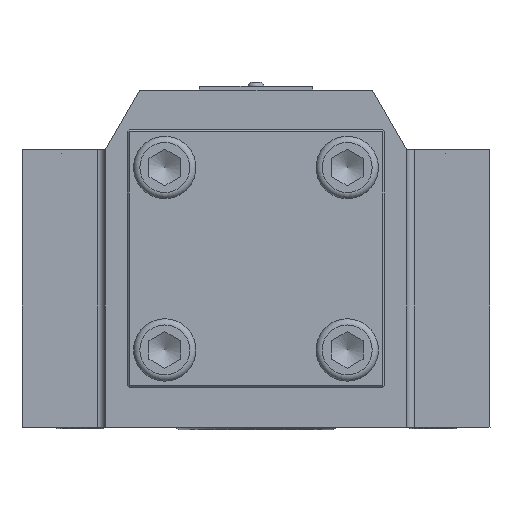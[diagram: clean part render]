
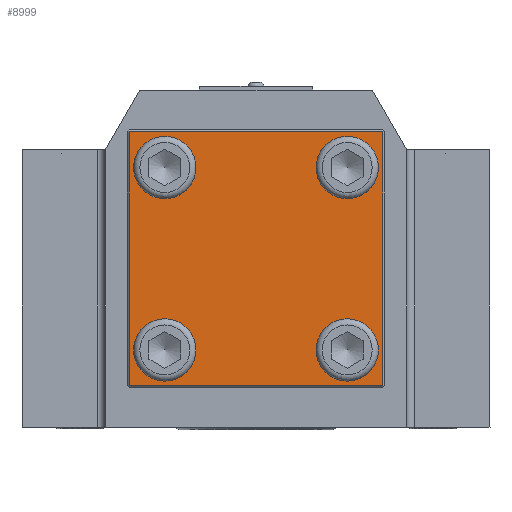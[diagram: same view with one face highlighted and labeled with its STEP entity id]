
A CAD part, left-side view. The second image highlights one B-rep face of the part: STEP entity #8999.
In plain terms, the highlighted planar face has unit normal (-1, 0, 0).
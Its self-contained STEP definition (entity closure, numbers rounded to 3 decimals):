
#1367=PLANE('',#10741);
#2064=LINE('',#33659,#2804);
#2065=LINE('',#33662,#2805);
#2066=LINE('',#33664,#2806);
#2067=LINE('',#33666,#2807);
#2804=VECTOR('',#12654,1.);
#2805=VECTOR('',#12655,1.);
#2806=VECTOR('',#12656,1.);
#2807=VECTOR('',#12657,1.);
#3397=EDGE_LOOP('',(#5472));
#3398=EDGE_LOOP('',(#5473));
#3399=EDGE_LOOP('',(#5474));
#3400=EDGE_LOOP('',(#5475));
#3401=EDGE_LOOP('',(#5476,#5477,#5478,#5479));
#5472=ORIENTED_EDGE('',*,*,#6872,.T.);
#5473=ORIENTED_EDGE('',*,*,#6873,.T.);
#5474=ORIENTED_EDGE('',*,*,#6874,.T.);
#5475=ORIENTED_EDGE('',*,*,#6875,.T.);
#5476=ORIENTED_EDGE('',*,*,#6876,.T.);
#5477=ORIENTED_EDGE('',*,*,#6877,.T.);
#5478=ORIENTED_EDGE('',*,*,#6878,.T.);
#5479=ORIENTED_EDGE('',*,*,#6879,.T.);
#6872=EDGE_CURVE('',#10070,#10070,#7205,.T.);
#6873=EDGE_CURVE('',#10071,#10071,#7206,.T.);
#6874=EDGE_CURVE('',#10072,#10072,#7207,.T.);
#6875=EDGE_CURVE('',#10073,#10073,#7208,.T.);
#6876=EDGE_CURVE('',#10074,#10075,#2064,.T.);
#6877=EDGE_CURVE('',#10075,#10076,#2065,.T.);
#6878=EDGE_CURVE('',#10076,#10077,#2066,.T.);
#6879=EDGE_CURVE('',#10077,#10074,#2067,.T.);
#7205=CIRCLE('',#10737,5.9);
#7206=CIRCLE('',#10738,5.9);
#7207=CIRCLE('',#10739,5.9);
#7208=CIRCLE('',#10740,5.9);
#8999=ADVANCED_FACE('',(#9303,#9304,#9305,#9306,#9307),#1367,.F.);
#9303=FACE_BOUND('',#3397,.T.);
#9304=FACE_BOUND('',#3398,.T.);
#9305=FACE_BOUND('',#3399,.T.);
#9306=FACE_BOUND('',#3400,.T.);
#9307=FACE_BOUND('',#3401,.T.);
#10070=VERTEX_POINT('',#33652);
#10071=VERTEX_POINT('',#33654);
#10072=VERTEX_POINT('',#33656);
#10073=VERTEX_POINT('',#33658);
#10074=VERTEX_POINT('',#33660);
#10075=VERTEX_POINT('',#33661);
#10076=VERTEX_POINT('',#33663);
#10077=VERTEX_POINT('',#33665);
#10737=AXIS2_PLACEMENT_3D('',#33651,#12646,#12647);
#10738=AXIS2_PLACEMENT_3D('',#33653,#12648,#12649);
#10739=AXIS2_PLACEMENT_3D('',#33655,#12650,#12651);
#10740=AXIS2_PLACEMENT_3D('',#33657,#12652,#12653);
#10741=AXIS2_PLACEMENT_3D('',#33667,#12658,#12659);
#12646=DIRECTION('',(1.,0.,0.));
#12647=DIRECTION('',(0.,0.,-1.));
#12648=DIRECTION('',(1.,0.,0.));
#12649=DIRECTION('',(0.,0.,-1.));
#12650=DIRECTION('',(1.,0.,0.));
#12651=DIRECTION('',(0.,0.,-1.));
#12652=DIRECTION('',(1.,0.,0.));
#12653=DIRECTION('',(0.,0.,-1.));
#12654=DIRECTION('',(0.,-1.,0.));
#12655=DIRECTION('',(0.,0.,1.));
#12656=DIRECTION('',(0.,1.,0.));
#12657=DIRECTION('',(0.,0.,-1.));
#12658=DIRECTION('',(1.,0.,0.));
#12659=DIRECTION('',(0.,0.,1.));
#33651=CARTESIAN_POINT('',(889.803,240.052,-37.337));
#33652=CARTESIAN_POINT('',(889.803,240.052,-43.237));
#33653=CARTESIAN_POINT('',(889.803,240.052,8.663));
#33654=CARTESIAN_POINT('',(889.803,240.052,2.763));
#33655=CARTESIAN_POINT('',(889.803,194.052,-37.337));
#33656=CARTESIAN_POINT('',(889.803,194.052,-43.237));
#33657=CARTESIAN_POINT('',(889.803,194.052,8.663));
#33658=CARTESIAN_POINT('',(889.803,194.052,2.763));
#33659=CARTESIAN_POINT('',(889.803,194.052,-46.337));
#33660=CARTESIAN_POINT('',(889.803,249.052,-46.337));
#33661=CARTESIAN_POINT('',(889.803,185.052,-46.337));
#33662=CARTESIAN_POINT('',(889.803,185.052,-37.337));
#33663=CARTESIAN_POINT('',(889.803,185.052,17.663));
#33664=CARTESIAN_POINT('',(889.803,194.052,17.663));
#33665=CARTESIAN_POINT('',(889.803,249.052,17.663));
#33666=CARTESIAN_POINT('',(889.803,249.052,-37.337));
#33667=CARTESIAN_POINT('',(889.803,194.052,-37.337));
